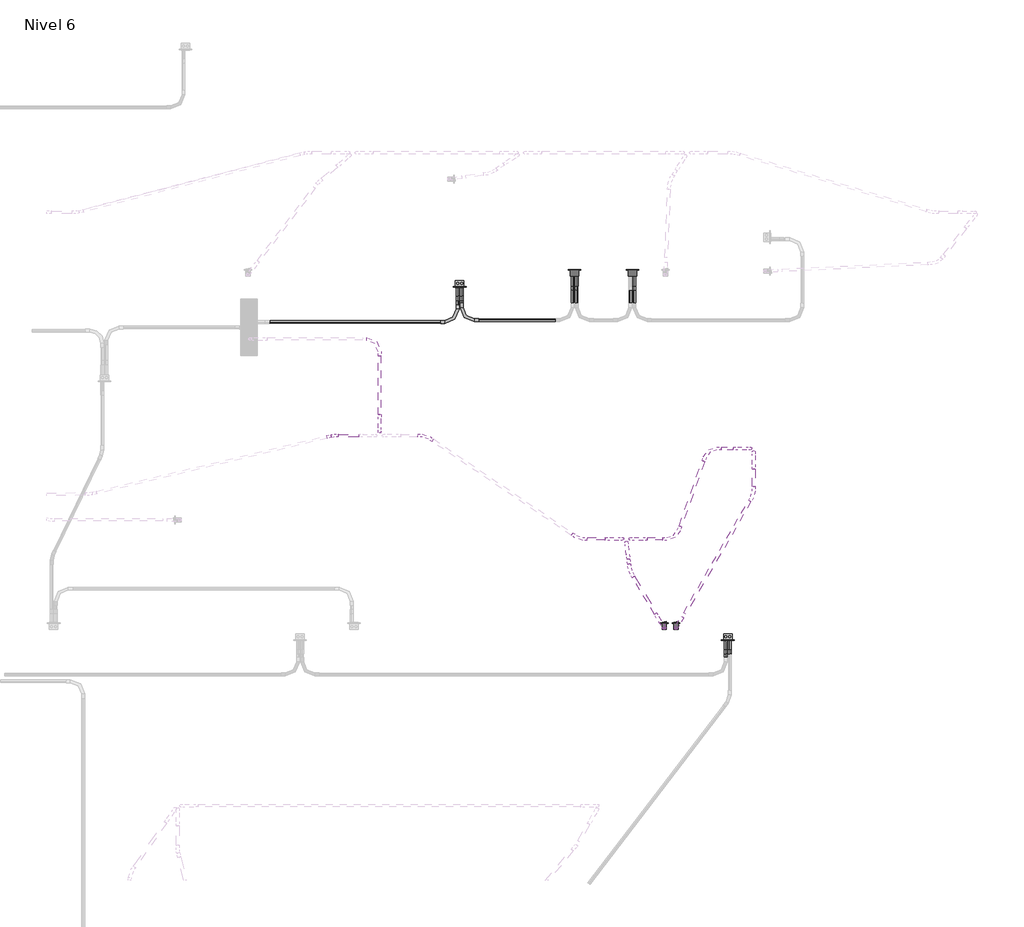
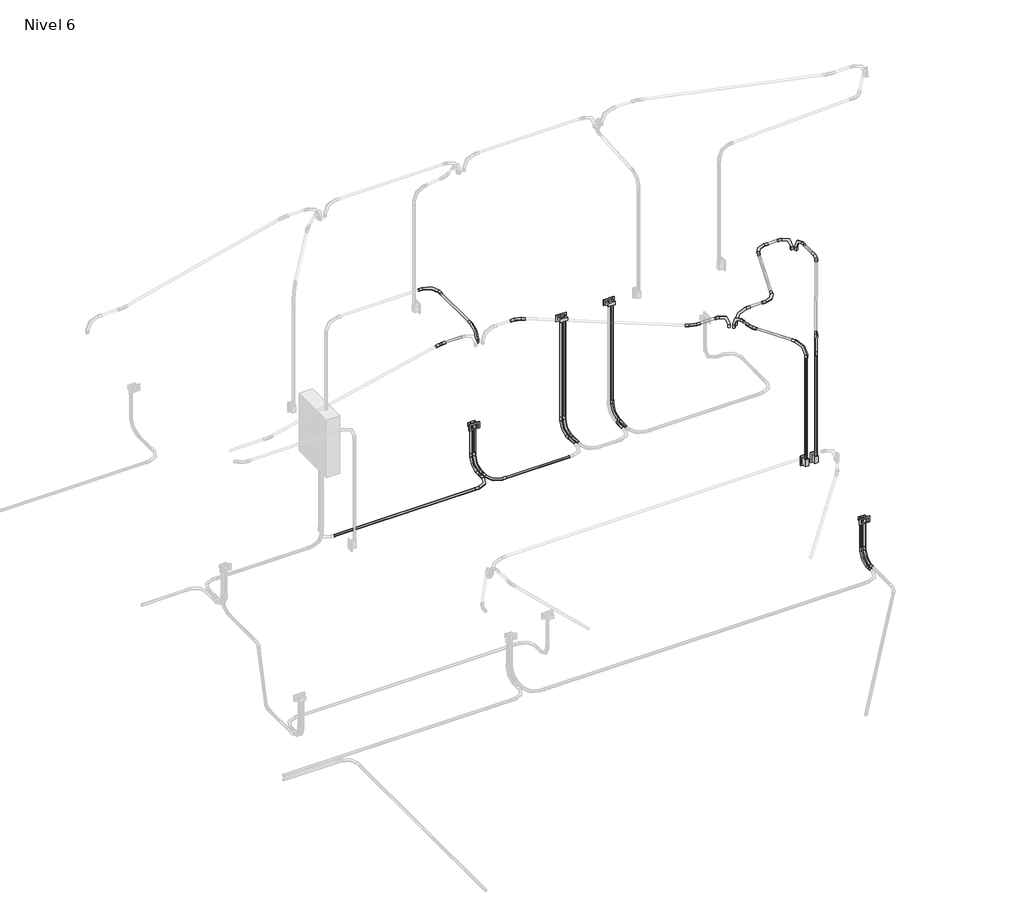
# One storey, part 8 of 9: 28 cable carrier segments, 25 cable carrier fittings, 4 proxies, 2 switching devices.
"""IFC4 building model written with IfcOpenShell, lengths in millimetres."""

from ifc_helpers import new_model, si_unit, point, frame, frame_2d, origin, place, context, project, spatial, circle_curve, trimmed, segment, composite_curve, outline, extrude, transform, mapped, element, save
from components import gfci_180f1b41, m_codo_de_tubo_extremo_liso_pvc_9da73e12, m_codo_de_tubo_extremo_liso_pvc_102f0f41, m_codo_de_tubo_extremo_liso_pvc_bdf38e05, m_codo_de_tubo_extremo_liso_pvc_96af7e0b, m_codo_de_tubo_extremo_liso_pvc_7aa797cd, m_codo_de_tubo_extremo_liso_pvc_b3bed08b, m_codo_de_tubo_extremo_liso_pvc_6da64345, switching_device_22fed34b

model = new_model("IFC4")

# Units and contexts
model_context = context("Model", 3, world=origin())
ifc_project = project(units=[si_unit("LENGTHUNIT", "METRE", prefix="MILLI")], contexts=[model_context])

# Site, building, storey
site = spatial("IfcSite", under=ifc_project)
building = spatial("IfcBuilding", under=site)
storey = spatial("IfcBuildingStorey", under=building, Name="Nivel 6", Elevation=13400.0)

# Proxies
placement = place(None, origin())
gfci_shape = gfci_180f1b41(model_context)
element("IfcBuildingElementProxy", 1, Name="Tomacorriente doble 220V : GFCI", ObjectType="Tomacorriente doble 220V : GFCI", at=placement, inside=storey, context=model_context, shape_type="MappedRepresentation", body=[
    mapped(gfci_shape, transform((4182.1446573, 15535.0, 14600.0), x_axis=(0.0, 0.0, 1.0), y_axis=(1.0, 0.0, 0.0), z_axis=(0.0, 1.0, 0.0))),
])
element("IfcBuildingElementProxy", 2, Name="Tomacorriente doble 220V : GFCI", ObjectType="Tomacorriente doble 220V : GFCI", at=placement, inside=storey, context=model_context, shape_type="MappedRepresentation", body=[
    mapped(gfci_shape, transform((4701.0778533, 15535.0, 14600.0), x_axis=(0.0, 0.0, 1.0), y_axis=(1.0, 0.0, 0.0), z_axis=(0.0, 1.0, 0.0))),
])
element("IfcBuildingElementProxy", 3, Name="Tomacorriente doble 220V : GFCI", ObjectType="Tomacorriente doble 220V : GFCI", at=placement, inside=storey, context=model_context, shape_type="MappedRepresentation", body=[
    mapped(gfci_shape, transform((3152.2211202, 15385.0, 13800.0), x_axis=(0.0, 0.0, 1.0), y_axis=(-1.0, 0.0, 0.0), z_axis=(0.0, -1.0, 0.0))),
])
element("IfcBuildingElementProxy", 4, Name="Tomacorriente doble 220V : GFCI", ObjectType="Tomacorriente doble 220V : GFCI", at=placement, inside=storey, context=model_context, shape_type="MappedRepresentation", body=[
    mapped(gfci_shape, transform((5557.1273027, 12215.0, 13800.0), x_axis=(0.0, 0.0, 1.0), y_axis=(-1.0, 0.0, 0.0), z_axis=(0.0, -1.0, 0.0))),
])

# Cable carrier fittings
m_codo_de_tubo_extremo_liso_pvc_shape = m_codo_de_tubo_extremo_liso_pvc_9da73e12(model_context)
element("IfcCableCarrierFitting", 5, ObjectType="M_Codo de tubo - Extremo liso - PVC : CODO POTENCIA", at=placement, inside=storey, context=model_context, shape_type="MappedRepresentation", body=[
    mapped(m_codo_de_tubo_extremo_liso_pvc_shape, transform((4719.1096731, 15505.3628882, 13330.0), x_axis=(0.0, 0.0, -1.0), y_axis=(0.0, -1.0, 0.0), z_axis=(-1.0, 0.0, 0.0))),
])
element("IfcCableCarrierFitting", 6, ObjectType="M_Codo de tubo - Extremo liso - PVC : CODO POTENCIA", at=placement, inside=storey, context=model_context, shape_type="MappedRepresentation", body=[
    mapped(m_codo_de_tubo_extremo_liso_pvc_shape, transform((4200.1764771, 15505.3628882, 13330.0), x_axis=(0.0, 0.0, -1.0), y_axis=(0.0, -1.0, 0.0), z_axis=(-1.0, 0.0, 0.0))),
])
element("IfcCableCarrierFitting", 7, ObjectType="M_Codo de tubo - Extremo liso - PVC : CODO POTENCIA", at=placement, inside=storey, context=model_context, shape_type="MappedRepresentation", body=[
    mapped(m_codo_de_tubo_extremo_liso_pvc_shape, transform((4164.1128375, 15505.3628882, 13330.0), x_axis=(0.0, 0.0, -1.0), y_axis=(0.0, -1.0, 0.0), z_axis=(-1.0, 0.0, 0.0))),
])
element("IfcCableCarrierFitting", 8, ObjectType="M_Codo de tubo - Extremo liso - PVC : CODO POTENCIA", at=placement, inside=storey, context=model_context, shape_type="MappedRepresentation", body=[
    mapped(m_codo_de_tubo_extremo_liso_pvc_shape, transform((3170.25294, 15414.6371118, 13330.0), x_axis=(0.0, 0.0, -1.0), y_axis=(0.0, -1.0, 0.0), z_axis=(-1.0, 0.0, 0.0))),
])
element("IfcCableCarrierFitting", 9, ObjectType="M_Codo de tubo - Extremo liso - PVC : CODO POTENCIA", at=placement, inside=storey, context=model_context, shape_type="MappedRepresentation", body=[
    mapped(m_codo_de_tubo_extremo_liso_pvc_shape, transform((3134.1893004, 15414.6371118, 13330.0), x_axis=(0.0, 0.0, -1.0), y_axis=(0.0, -1.0, 0.0), z_axis=(-1.0, 0.0, 0.0))),
])
element("IfcCableCarrierFitting", 10, ObjectType="M_Codo de tubo - Extremo liso - PVC : CODO POTENCIA", at=placement, inside=storey, context=model_context, shape_type="MappedRepresentation", body=[
    mapped(m_codo_de_tubo_extremo_liso_pvc_shape, transform((3170.25294, 15085.1167763, 13330.0), x_axis=(0.0, -1.0, 0.0), y_axis=(1.0, 0.0, 0.0), z_axis=(0.0, 0.0, 1.0))),
])
element("IfcCableCarrierFitting", 11, ObjectType="M_Codo de tubo - Extremo liso - PVC : CODO POTENCIA", at=placement, inside=storey, context=model_context, shape_type="MappedRepresentation", body=[
    mapped(m_codo_de_tubo_extremo_liso_pvc_shape, transform((3134.1893004, 15069.6371118, 13330.0), x_axis=(1.0, 0.0, 0.0), y_axis=(0.0, 1.0, 0.0), z_axis=(0.0, 0.0, 1.0))),
])
element("IfcCableCarrierFitting", 12, ObjectType="M_Codo de tubo - Extremo liso - PVC : CODO POTENCIA", at=placement, inside=storey, context=model_context, shape_type="MappedRepresentation", body=[
    mapped(m_codo_de_tubo_extremo_liso_pvc_shape, transform((5539.0954829, 12244.6371118, 13330.0), x_axis=(0.0, 0.0, -1.0), y_axis=(0.0, -1.0, 0.0), z_axis=(-1.0, 0.0, 0.0))),
])
element("IfcCableCarrierFitting", 13, ObjectType="M_Codo de tubo - Extremo liso - PVC : CODO POTENCIA", at=placement, inside=storey, context=model_context, shape_type="MappedRepresentation", body=[
    mapped(m_codo_de_tubo_extremo_liso_pvc_shape, transform((5575.1591225, 12244.6371118, 13330.0), x_axis=(0.0, 0.0, -1.0), y_axis=(0.0, -1.0, 0.0), z_axis=(-1.0, 0.0, 0.0))),
])
element("IfcCableCarrierFitting", 14, ObjectType="M_Codo de tubo - Extremo liso - PVC : CODO ILUMINACION", at=placement, inside=storey, context=model_context, shape_type="MappedRepresentation", body=[
    mapped(m_codo_de_tubo_extremo_liso_pvc_shape, transform((4683.8571728, 13122.418439, 15950.0), x_axis=(-1.0, 0.0, 0.0), y_axis=(0.0, 0.0, -1.0), z_axis=(0.0, -1.0, 0.0))),
])
element("IfcCableCarrierFitting", 15, ObjectType="M_Codo de tubo - Extremo liso - PVC : CODO ILUMINACION", at=placement, inside=storey, context=model_context, shape_type="MappedRepresentation", body=[
    mapped(m_codo_de_tubo_extremo_liso_pvc_shape, transform((2433.3089238, 14916.0485453, 15950.0), x_axis=(0.0, 1.0, 0.0), y_axis=(-1.0, 0.0, 0.0), z_axis=(0.0, 0.0, 1.0))),
])
element("IfcCableCarrierFitting", 16, ObjectType="M_Codo de tubo - Extremo liso - PVC : CODO ILUMINACION", at=placement, inside=storey, context=model_context, shape_type="MappedRepresentation", body=[
    mapped(m_codo_de_tubo_extremo_liso_pvc_shape, transform((4646.8646191, 13092.0334671, 15950.0), x_axis=(-0.12496053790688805, 0.992161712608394, 0.0), y_axis=(0.0, 0.0, -1.0000000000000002), z_axis=(-0.992161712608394, -0.12496053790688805, 0.0))),
])
element("IfcCableCarrierFitting", 17, ObjectType="M_Codo de tubo - Extremo liso - PVC : CODO ILUMINACION", at=placement, inside=storey, context=model_context, shape_type="MappedRepresentation", body=[
    mapped(m_codo_de_tubo_extremo_liso_pvc_shape, transform((4986.8964525, 12321.8611243, 15950.0), x_axis=(0.0, 0.0, 1.0), y_axis=(-0.5150380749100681, 0.857167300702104, 0.0), z_axis=(-0.857167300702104, -0.5150380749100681, 0.0))),
])
element("IfcCableCarrierFitting", 18, ObjectType="M_Codo de tubo - Extremo liso - PVC : CODO ILUMINACION", at=placement, inside=storey, context=model_context, shape_type="MappedRepresentation", body=[
    mapped(m_codo_de_tubo_extremo_liso_pvc_shape, transform((5789.78434, 13902.1107255, 15950.0), x_axis=(0.0, 1.0, 0.0), y_axis=(0.0, 0.0, -1.0), z_axis=(-1.0, 0.0, 0.0))),
])
element("IfcCableCarrierFitting", 19, ObjectType="M_Codo de tubo - Extremo liso - PVC : CODO ILUMINACION", at=placement, inside=storey, context=model_context, shape_type="MappedRepresentation", body=[
    mapped(m_codo_de_tubo_extremo_liso_pvc_shape, transform((5092.4668277, 12321.8611243, 15950.0), x_axis=(0.0, 0.0, 1.0), y_axis=(0.5103556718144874, 0.8599634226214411, 0.0), z_axis=(-0.8599634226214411, 0.5103556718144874, 0.0))),
])
m_codo_de_tubo_extremo_liso_pvc_2_shape = m_codo_de_tubo_extremo_liso_pvc_102f0f41(model_context)
element("IfcCableCarrierFitting", 20, ObjectType="M_Codo de tubo - Extremo liso - PVC : CODO ILUMINACION", at=placement, inside=storey, context=model_context, shape_type="MappedRepresentation", body=[
    mapped(m_codo_de_tubo_extremo_liso_pvc_2_shape, transform((5759.564121, 13932.3309445, 15950.0), x_axis=(1.0, 0.0, 0.0), y_axis=(0.0, 0.0, 1.0), z_axis=(0.0, -1.0, 0.0))),
])
element("IfcCableCarrierFitting", 21, ObjectType="M_Codo de tubo - Extremo liso - PVC : CODO ILUMINACION", at=placement, inside=storey, context=model_context, shape_type="MappedRepresentation", body=[
    mapped(m_codo_de_tubo_extremo_liso_pvc_2_shape, transform((4611.6011783, 13122.418439, 15950.0), x_axis=(1.0, 0.0, 0.0), y_axis=(0.0, 0.0, 1.0), z_axis=(0.0, -1.0, 0.0))),
])
element("IfcCableCarrierFitting", 22, ObjectType="M_Codo de tubo - Extremo liso - PVC : CODO ILUMINACION", at=placement, inside=storey, context=model_context, shape_type="MappedRepresentation", body=[
    mapped(m_codo_de_tubo_extremo_liso_pvc_2_shape, transform((2433.3089238, 14083.6485453, 15950.0), x_axis=(0.0, -1.0, 0.0), y_axis=(0.0, 0.0, 1.0), z_axis=(-1.0, 0.0, 0.0))),
])
m_codo_de_tubo_extremo_liso_pvc_3_shape = m_codo_de_tubo_extremo_liso_pvc_bdf38e05(model_context)
element("IfcCableCarrierFitting", 23, ObjectType="M_Codo de tubo - Extremo liso - PVC : CODO ILUMINACION", at=placement, inside=storey, context=model_context, shape_type="MappedRepresentation", body=[
    mapped(m_codo_de_tubo_extremo_liso_pvc_3_shape, transform((5378.564121, 13932.3309445, 15950.0), x_axis=(-1.0, 0.0, 0.0), y_axis=(0.0, -1.0, 0.0), z_axis=(0.0, 0.0, 1.0))),
])
element("IfcCableCarrierFitting", 24, ObjectType="M_Codo de tubo - Extremo liso - PVC : CODO ILUMINACION", at=placement, inside=storey, context=model_context, shape_type="MappedRepresentation", body=[
    mapped(m_codo_de_tubo_extremo_liso_pvc_3_shape, transform((5090.7365125, 13122.418439, 15950.0), x_axis=(1.0, 0.0, 0.0), y_axis=(0.0, 1.0, 0.0), z_axis=(0.0, 0.0, 1.0))),
])
m_codo_de_tubo_extremo_liso_pvc_4_shape = m_codo_de_tubo_extremo_liso_pvc_96af7e0b(model_context)
element("IfcCableCarrierFitting", 25, ObjectType="M_Codo de tubo - Extremo liso - PVC : CODO ILUMINACION", at=placement, inside=storey, context=model_context, shape_type="MappedRepresentation", body=[
    mapped(m_codo_de_tubo_extremo_liso_pvc_4_shape, transform((2850.436921, 14047.5205481, 15950.0), x_axis=(-0.8290123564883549, 0.5592302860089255, 0.0), y_axis=(-0.5592302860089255, -0.8290123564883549, 0.0), z_axis=(0.0, 0.0, 1.0))),
])
element("IfcCableCarrierFitting", 26, ObjectType="M_Codo de tubo - Extremo liso - PVC : CODO ILUMINACION", at=placement, inside=storey, context=model_context, shape_type="MappedRepresentation", body=[
    mapped(m_codo_de_tubo_extremo_liso_pvc_4_shape, transform((4221.8238052, 13122.418439, 15950.0), x_axis=(0.8290123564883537, -0.5592302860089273, 0.0), y_axis=(0.5592302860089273, 0.8290123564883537, 0.0), z_axis=(0.0, 0.0, 1.0))),
])
m_codo_de_tubo_extremo_liso_pvc_5_shape = m_codo_de_tubo_extremo_liso_pvc_7aa797cd(model_context)
element("IfcCableCarrierFitting", 27, ObjectType="M_Codo de tubo - Extremo liso - PVC : CODO ILUMINACION", at=placement, inside=storey, context=model_context, shape_type="MappedRepresentation", body=[
    mapped(m_codo_de_tubo_extremo_liso_pvc_5_shape, transform((2011.6312144, 14047.5205481, 15950.0), x_axis=(-1.0, 0.0, 0.0), y_axis=(0.0, -1.0, 0.0), z_axis=(0.0, 0.0, 1.0))),
])
m_codo_de_tubo_extremo_liso_pvc_6_shape = m_codo_de_tubo_extremo_liso_pvc_b3bed08b(model_context)
element("IfcCableCarrierFitting", 28, ObjectType="M_Codo de tubo - Extremo liso - PVC : CODO ILUMINACION", at=placement, inside=storey, context=model_context, shape_type="MappedRepresentation", body=[
    mapped(m_codo_de_tubo_extremo_liso_pvc_6_shape, transform((4679.4140036, 12833.5978552, 15950.0), x_axis=(0.1249605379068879, -0.992161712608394, 0.0), y_axis=(0.992161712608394, 0.1249605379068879, 0.0), z_axis=(0.0, 0.0, 1.0))),
])
m_codo_de_tubo_extremo_liso_pvc_7_shape = m_codo_de_tubo_extremo_liso_pvc_6da64345(model_context)
element("IfcCableCarrierFitting", 29, ObjectType="M_Codo de tubo - Extremo liso - PVC : CODO ILUMINACION", at=placement, inside=storey, context=model_context, shape_type="MappedRepresentation", body=[
    mapped(m_codo_de_tubo_extremo_liso_pvc_7_shape, transform((5789.78434, 13521.1107255, 15950.0), x_axis=(0.5103556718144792, 0.859963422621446, 0.0), y_axis=(-0.859963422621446, 0.5103556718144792, 0.0), z_axis=(0.0, 0.0, 1.0))),
])

# Cable carrier segments
element("IfcCableCarrierSegment", 30, ObjectType="PVC-SEL, POTENCIA", at=placement, inside=storey, context=model_context, shape_type="SweptSolid", body=[
    extrude(outline(composite_curve([segment(trimmed(circle_curve(frame_2d((13330.0, 4719.1096731)), 11.71), [point((13330.0, 4707.3996731))], [point((13318.29, 4719.1096731))], False, "CARTESIAN"), True, "CONTINUOUS"), segment(trimmed(circle_curve(frame_2d((13330.0, 4719.1096731)), 11.71), [point((13318.29, 4719.1096731))], [point((13330.0, 4730.8196731))], False, "CARTESIAN"), True, "CONTINUOUS"), segment(trimmed(circle_curve(frame_2d((13330.0, 4719.1096731)), 11.71), [point((13330.0, 4730.8196731))], [point((13341.71, 4719.1096731))], False, "CARTESIAN"), True, "CONTINUOUS"), segment(trimmed(circle_curve(frame_2d((13330.0, 4719.1096731)), 11.71), [point((13341.71, 4719.1096731))], [point((13330.0, 4707.3996731))], False, "CARTESIAN"), True, "CONTINUOUS")], self_intersect=False)), frame((0.0, 15237.5167763, 0.0), z_axis=(0.0, 1.0, 0.0), x_axis=(0.0, 0.0, 1.0)), (0.0, 0.0, 1.0), 115.4461119),
])
element("IfcCableCarrierSegment", 31, ObjectType="PVC-SEL, POTENCIA", at=placement, inside=storey, context=model_context, shape_type="SweptSolid", body=[
    extrude(outline(composite_curve([segment(trimmed(circle_curve(frame_2d((4719.1096731, 15505.3628882)), 11.71), [point((4730.8196731, 15505.3628882))], [point((4719.1096731, 15493.6528882))], False, "CARTESIAN"), True, "CONTINUOUS"), segment(trimmed(circle_curve(frame_2d((4719.1096731, 15505.3628882)), 11.71), [point((4719.1096731, 15493.6528882))], [point((4707.3996731, 15505.3628882))], False, "CARTESIAN"), True, "CONTINUOUS"), segment(trimmed(circle_curve(frame_2d((4719.1096731, 15505.3628882)), 11.71), [point((4707.3996731, 15505.3628882))], [point((4719.1096731, 15517.0728882))], False, "CARTESIAN"), True, "CONTINUOUS"), segment(trimmed(circle_curve(frame_2d((4719.1096731, 15505.3628882)), 11.71), [point((4719.1096731, 15517.0728882))], [point((4730.8196731, 15505.3628882))], False, "CARTESIAN"), True, "CONTINUOUS")], self_intersect=False)), frame((0.0, 0.0, 13482.4), z_axis=(0.0, 0.0, 1.0), x_axis=(1.0, 0.0, 0.0)), (0.0, 0.0, 1.0), 1097.3020537),
])
element("IfcCableCarrierSegment", 32, ObjectType="PVC-SEL, POTENCIA", at=placement, inside=storey, context=model_context, shape_type="SweptSolid", body=[
    extrude(outline(composite_curve([segment(trimmed(circle_curve(frame_2d((13330.0, 4200.1764771)), 11.71), [point((13330.0, 4188.4664771))], [point((13318.29, 4200.1764771))], False, "CARTESIAN"), True, "CONTINUOUS"), segment(trimmed(circle_curve(frame_2d((13330.0, 4200.1764771)), 11.71), [point((13318.29, 4200.1764771))], [point((13330.0, 4211.8864771))], False, "CARTESIAN"), True, "CONTINUOUS"), segment(trimmed(circle_curve(frame_2d((13330.0, 4200.1764771)), 11.71), [point((13330.0, 4211.8864771))], [point((13341.71, 4200.1764771))], False, "CARTESIAN"), True, "CONTINUOUS"), segment(trimmed(circle_curve(frame_2d((13330.0, 4200.1764771)), 11.71), [point((13341.71, 4200.1764771))], [point((13330.0, 4188.4664771))], False, "CARTESIAN"), True, "CONTINUOUS")], self_intersect=False)), frame((0.0, 15237.5167763, 0.0), z_axis=(0.0, 1.0, 0.0), x_axis=(0.0, 0.0, 1.0)), (0.0, 0.0, 1.0), 115.4461119),
])
element("IfcCableCarrierSegment", 33, ObjectType="PVC-SEL, POTENCIA", at=placement, inside=storey, context=model_context, shape_type="SweptSolid", body=[
    extrude(outline(composite_curve([segment(trimmed(circle_curve(frame_2d((4200.1764771, 15505.3628882)), 11.71), [point((4211.8864771, 15505.3628882))], [point((4200.1764771, 15493.6528882))], False, "CARTESIAN"), True, "CONTINUOUS"), segment(trimmed(circle_curve(frame_2d((4200.1764771, 15505.3628882)), 11.71), [point((4200.1764771, 15493.6528882))], [point((4188.4664771, 15505.3628882))], False, "CARTESIAN"), True, "CONTINUOUS"), segment(trimmed(circle_curve(frame_2d((4200.1764771, 15505.3628882)), 11.71), [point((4188.4664771, 15505.3628882))], [point((4200.1764771, 15517.0728882))], False, "CARTESIAN"), True, "CONTINUOUS"), segment(trimmed(circle_curve(frame_2d((4200.1764771, 15505.3628882)), 11.71), [point((4200.1764771, 15517.0728882))], [point((4211.8864771, 15505.3628882))], False, "CARTESIAN"), True, "CONTINUOUS")], self_intersect=False)), frame((0.0, 0.0, 13482.4), z_axis=(0.0, 0.0, 1.0), x_axis=(1.0, 0.0, 0.0)), (0.0, 0.0, 1.0), 1097.3020537),
])
element("IfcCableCarrierSegment", 34, ObjectType="PVC-SEL, POTENCIA", at=placement, inside=storey, context=model_context, shape_type="SweptSolid", body=[
    extrude(outline(composite_curve([segment(trimmed(circle_curve(frame_2d((13330.0, 4164.1128375)), 11.71), [point((13330.0, 4152.4028375))], [point((13318.29, 4164.1128375))], False, "CARTESIAN"), True, "CONTINUOUS"), segment(trimmed(circle_curve(frame_2d((13330.0, 4164.1128375)), 11.71), [point((13318.29, 4164.1128375))], [point((13330.0, 4175.8228375))], False, "CARTESIAN"), True, "CONTINUOUS"), segment(trimmed(circle_curve(frame_2d((13330.0, 4164.1128375)), 11.71), [point((13330.0, 4175.8228375))], [point((13341.71, 4164.1128375))], False, "CARTESIAN"), True, "CONTINUOUS"), segment(trimmed(circle_curve(frame_2d((13330.0, 4164.1128375)), 11.71), [point((13341.71, 4164.1128375))], [point((13330.0, 4152.4028375))], False, "CARTESIAN"), True, "CONTINUOUS")], self_intersect=False)), frame((0.0, 15237.5167763, 0.0), z_axis=(0.0, 1.0, 0.0), x_axis=(0.0, 0.0, 1.0)), (0.0, 0.0, 1.0), 115.4461119),
])
element("IfcCableCarrierSegment", 35, ObjectType="PVC-SEL, POTENCIA", at=placement, inside=storey, context=model_context, shape_type="SweptSolid", body=[
    extrude(outline(composite_curve([segment(trimmed(circle_curve(frame_2d((4164.1128375, 15505.3628882)), 11.71), [point((4175.8228375, 15505.3628882))], [point((4164.1128375, 15493.6528882))], False, "CARTESIAN"), True, "CONTINUOUS"), segment(trimmed(circle_curve(frame_2d((4164.1128375, 15505.3628882)), 11.71), [point((4164.1128375, 15493.6528882))], [point((4152.4028375, 15505.3628882))], False, "CARTESIAN"), True, "CONTINUOUS"), segment(trimmed(circle_curve(frame_2d((4164.1128375, 15505.3628882)), 11.71), [point((4152.4028375, 15505.3628882))], [point((4164.1128375, 15517.0728882))], False, "CARTESIAN"), True, "CONTINUOUS"), segment(trimmed(circle_curve(frame_2d((4164.1128375, 15505.3628882)), 11.71), [point((4164.1128375, 15517.0728882))], [point((4175.8228375, 15505.3628882))], False, "CARTESIAN"), True, "CONTINUOUS")], self_intersect=False)), frame((0.0, 0.0, 13482.4), z_axis=(0.0, 0.0, 1.0), x_axis=(1.0, 0.0, 0.0)), (0.0, 0.0, 1.0), 1097.3020537),
])
element("IfcCableCarrierSegment", 36, ObjectType="PVC-SEL, POTENCIA", at=placement, inside=storey, context=model_context, shape_type="SweptSolid", body=[
    extrude(outline(composite_curve([segment(trimmed(circle_curve(frame_2d((13330.0, 4683.0460335)), 11.71), [point((13330.0, 4694.7560335))], [point((13341.71, 4683.0460335))], False, "CARTESIAN"), True, "CONTINUOUS"), segment(trimmed(circle_curve(frame_2d((13330.0, 4683.0460335)), 11.71), [point((13341.71, 4683.0460335))], [point((13330.0, 4671.3360335))], False, "CARTESIAN"), True, "CONTINUOUS"), segment(trimmed(circle_curve(frame_2d((13330.0, 4683.0460335)), 11.71), [point((13330.0, 4671.3360335))], [point((13318.29, 4683.0460335))], False, "CARTESIAN"), True, "CONTINUOUS"), segment(trimmed(circle_curve(frame_2d((13330.0, 4683.0460335)), 11.71), [point((13318.29, 4683.0460335))], [point((13330.0, 4694.7560335))], False, "CARTESIAN"), True, "CONTINUOUS")], self_intersect=False)), frame((0.0, 15237.5167763, 0.0), z_axis=(0.0, 1.0, 0.0), x_axis=(0.0, 0.0, 1.0)), (0.0, 0.0, 1.0), 115.4461119),
])
element("IfcCableCarrierSegment", 37, ObjectType="PVC-SEL, POTENCIA", at=placement, inside=storey, context=model_context, shape_type="SweptSolid", body=[
    extrude(outline(composite_curve([segment(trimmed(circle_curve(frame_2d((15085.1167763, 13330.0)), 11.71), [point((15073.4067763, 13330.0))], [point((15085.1167763, 13341.71))], False, "CARTESIAN"), True, "CONTINUOUS"), segment(trimmed(circle_curve(frame_2d((15085.1167763, 13330.0)), 11.71), [point((15085.1167763, 13341.71))], [point((15096.8267763, 13330.0))], False, "CARTESIAN"), True, "CONTINUOUS"), segment(trimmed(circle_curve(frame_2d((15085.1167763, 13330.0)), 11.71), [point((15096.8267763, 13330.0))], [point((15085.1167763, 13318.29))], False, "CARTESIAN"), True, "CONTINUOUS"), segment(trimmed(circle_curve(frame_2d((15085.1167763, 13330.0)), 11.71), [point((15085.1167763, 13318.29))], [point((15073.4067763, 13330.0))], False, "CARTESIAN"), True, "CONTINUOUS")], self_intersect=False)), frame((3322.65294, 0.0, 0.0), z_axis=(1.0, 0.0, 0.0), x_axis=(0.0, 1.0, 0.0)), (0.0, 0.0, 1.0), 689.0598974),
])
element("IfcCableCarrierSegment", 38, ObjectType="PVC-SEL, POTENCIA", at=placement, inside=storey, context=model_context, shape_type="SweptSolid", body=[
    extrude(outline(composite_curve([segment(trimmed(circle_curve(frame_2d((13330.0, 3170.25294)), 11.71), [point((13330.0, 3158.54294))], [point((13318.29, 3170.25294))], False, "CARTESIAN"), True, "CONTINUOUS"), segment(trimmed(circle_curve(frame_2d((13330.0, 3170.25294)), 11.71), [point((13318.29, 3170.25294))], [point((13330.0, 3181.96294))], False, "CARTESIAN"), True, "CONTINUOUS"), segment(trimmed(circle_curve(frame_2d((13330.0, 3170.25294)), 11.71), [point((13330.0, 3181.96294))], [point((13341.71, 3170.25294))], False, "CARTESIAN"), True, "CONTINUOUS"), segment(trimmed(circle_curve(frame_2d((13330.0, 3170.25294)), 11.71), [point((13341.71, 3170.25294))], [point((13330.0, 3158.54294))], False, "CARTESIAN"), True, "CONTINUOUS")], self_intersect=False)), frame((0.0, 15237.5167763, 0.0), z_axis=(0.0, 1.0, 0.0), x_axis=(0.0, 0.0, 1.0)), (0.0, 0.0, 1.0), 24.7203355),
])
element("IfcCableCarrierSegment", 39, ObjectType="PVC-SEL, POTENCIA", at=placement, inside=storey, context=model_context, shape_type="SweptSolid", body=[
    extrude(outline(composite_curve([segment(trimmed(circle_curve(frame_2d((3170.25294, 15414.6371118)), 11.71), [point((3181.96294, 15414.6371118))], [point((3170.25294, 15402.9271118))], False, "CARTESIAN"), True, "CONTINUOUS"), segment(trimmed(circle_curve(frame_2d((3170.25294, 15414.6371118)), 11.71), [point((3170.25294, 15402.9271118))], [point((3158.54294, 15414.6371118))], False, "CARTESIAN"), True, "CONTINUOUS"), segment(trimmed(circle_curve(frame_2d((3170.25294, 15414.6371118)), 11.71), [point((3158.54294, 15414.6371118))], [point((3170.25294, 15426.3471118))], False, "CARTESIAN"), True, "CONTINUOUS"), segment(trimmed(circle_curve(frame_2d((3170.25294, 15414.6371118)), 11.71), [point((3170.25294, 15426.3471118))], [point((3181.96294, 15414.6371118))], False, "CARTESIAN"), True, "CONTINUOUS")], self_intersect=False)), frame((0.0, 0.0, 13482.4), z_axis=(0.0, 0.0, 1.0), x_axis=(1.0, 0.0, 0.0)), (0.0, 0.0, 1.0), 297.3020537),
])
element("IfcCableCarrierSegment", 40, ObjectType="PVC-SEL, POTENCIA", at=placement, inside=storey, context=model_context, shape_type="SweptSolid", body=[
    extrude(outline(composite_curve([segment(trimmed(circle_curve(frame_2d((13330.0, 3134.1893004)), 11.71), [point((13330.0, 3122.4793004))], [point((13318.29, 3134.1893004))], False, "CARTESIAN"), True, "CONTINUOUS"), segment(trimmed(circle_curve(frame_2d((13330.0, 3134.1893004)), 11.71), [point((13318.29, 3134.1893004))], [point((13330.0, 3145.8993004))], False, "CARTESIAN"), True, "CONTINUOUS"), segment(trimmed(circle_curve(frame_2d((13330.0, 3134.1893004)), 11.71), [point((13330.0, 3145.8993004))], [point((13341.71, 3134.1893004))], False, "CARTESIAN"), True, "CONTINUOUS"), segment(trimmed(circle_curve(frame_2d((13330.0, 3134.1893004)), 11.71), [point((13341.71, 3134.1893004))], [point((13330.0, 3122.4793004))], False, "CARTESIAN"), True, "CONTINUOUS")], self_intersect=False)), frame((0.0, 15222.0371118, 0.0), z_axis=(0.0, 1.0, 0.0), x_axis=(0.0, 0.0, 1.0)), (0.0, 0.0, 1.0), 40.2),
])
element("IfcCableCarrierSegment", 41, ObjectType="PVC-SEL, POTENCIA", at=placement, inside=storey, context=model_context, shape_type="SweptSolid", body=[
    extrude(outline(composite_curve([segment(trimmed(circle_curve(frame_2d((3134.1893004, 15414.6371118)), 11.71), [point((3145.8993004, 15414.6371118))], [point((3134.1893004, 15402.9271118))], False, "CARTESIAN"), True, "CONTINUOUS"), segment(trimmed(circle_curve(frame_2d((3134.1893004, 15414.6371118)), 11.71), [point((3134.1893004, 15402.9271118))], [point((3122.4793004, 15414.6371118))], False, "CARTESIAN"), True, "CONTINUOUS"), segment(trimmed(circle_curve(frame_2d((3134.1893004, 15414.6371118)), 11.71), [point((3122.4793004, 15414.6371118))], [point((3134.1893004, 15426.3471118))], False, "CARTESIAN"), True, "CONTINUOUS"), segment(trimmed(circle_curve(frame_2d((3134.1893004, 15414.6371118)), 11.71), [point((3134.1893004, 15426.3471118))], [point((3145.8993004, 15414.6371118))], False, "CARTESIAN"), True, "CONTINUOUS")], self_intersect=False)), frame((0.0, 0.0, 13482.4), z_axis=(0.0, 0.0, 1.0), x_axis=(1.0, 0.0, 0.0)), (0.0, 0.0, 1.0), 297.3020537),
])
element("IfcCableCarrierSegment", 42, ObjectType="PVC-SEL, POTENCIA", at=placement, inside=storey, context=model_context, shape_type="SweptSolid", body=[
    extrude(outline(composite_curve([segment(trimmed(circle_curve(frame_2d((15069.6371118, 13330.0)), 11.71), [point((15081.3471118, 13330.0))], [point((15069.6371118, 13318.29))], False, "CARTESIAN"), True, "CONTINUOUS"), segment(trimmed(circle_curve(frame_2d((15069.6371118, 13330.0)), 11.71), [point((15069.6371118, 13318.29))], [point((15057.9271118, 13330.0))], False, "CARTESIAN"), True, "CONTINUOUS"), segment(trimmed(circle_curve(frame_2d((15069.6371118, 13330.0)), 11.71), [point((15057.9271118, 13330.0))], [point((15069.6371118, 13341.71))], False, "CARTESIAN"), True, "CONTINUOUS"), segment(trimmed(circle_curve(frame_2d((15069.6371118, 13330.0)), 11.71), [point((15069.6371118, 13341.71))], [point((15081.3471118, 13330.0))], False, "CARTESIAN"), True, "CONTINUOUS")], self_intersect=False)), frame((1446.5893004, 0.0, 0.0), z_axis=(1.0, 0.0, 0.0), x_axis=(0.0, 1.0, 0.0)), (0.0, 0.0, 1.0), 1535.2),
])
element("IfcCableCarrierSegment", 43, ObjectType="PVC-SEL, POTENCIA", at=placement, inside=storey, context=model_context, shape_type="SweptSolid", body=[
    extrude(outline(composite_curve([segment(trimmed(circle_curve(frame_2d((13330.0, 5539.0954829)), 11.71), [point((13330.0, 5527.3854829))], [point((13318.29, 5539.0954829))], False, "CARTESIAN"), True, "CONTINUOUS"), segment(trimmed(circle_curve(frame_2d((13330.0, 5539.0954829)), 11.71), [point((13318.29, 5539.0954829))], [point((13330.0, 5550.8054829))], False, "CARTESIAN"), True, "CONTINUOUS"), segment(trimmed(circle_curve(frame_2d((13330.0, 5539.0954829)), 11.71), [point((13330.0, 5550.8054829))], [point((13341.71, 5539.0954829))], False, "CARTESIAN"), True, "CONTINUOUS"), segment(trimmed(circle_curve(frame_2d((13330.0, 5539.0954829)), 11.71), [point((13341.71, 5539.0954829))], [point((13330.0, 5527.3854829))], False, "CARTESIAN"), True, "CONTINUOUS")], self_intersect=False)), frame((0.0, 12057.0371118, 0.0), z_axis=(0.0, 1.0, 0.0), x_axis=(0.0, 0.0, 1.0)), (0.0, 0.0, 1.0), 35.2),
])
element("IfcCableCarrierSegment", 44, ObjectType="PVC-SEL, POTENCIA", at=placement, inside=storey, context=model_context, shape_type="SweptSolid", body=[
    extrude(outline(composite_curve([segment(trimmed(circle_curve(frame_2d((5539.0954829, 12244.6371118)), 11.71), [point((5550.8054829, 12244.6371118))], [point((5539.0954829, 12232.9271118))], False, "CARTESIAN"), True, "CONTINUOUS"), segment(trimmed(circle_curve(frame_2d((5539.0954829, 12244.6371118)), 11.71), [point((5539.0954829, 12232.9271118))], [point((5527.3854829, 12244.6371118))], False, "CARTESIAN"), True, "CONTINUOUS"), segment(trimmed(circle_curve(frame_2d((5539.0954829, 12244.6371118)), 11.71), [point((5527.3854829, 12244.6371118))], [point((5539.0954829, 12256.3471118))], False, "CARTESIAN"), True, "CONTINUOUS"), segment(trimmed(circle_curve(frame_2d((5539.0954829, 12244.6371118)), 11.71), [point((5539.0954829, 12256.3471118))], [point((5550.8054829, 12244.6371118))], False, "CARTESIAN"), True, "CONTINUOUS")], self_intersect=False)), frame((0.0, 0.0, 13482.4), z_axis=(0.0, 0.0, 1.0), x_axis=(1.0, 0.0, 0.0)), (0.0, 0.0, 1.0), 297.3020537),
])
element("IfcCableCarrierSegment", 45, ObjectType="PVC-SEL, POTENCIA", at=placement, inside=storey, context=model_context, shape_type="SweptSolid", body=[
    extrude(outline(composite_curve([segment(trimmed(circle_curve(frame_2d((5575.1591225, 12244.6371118)), 11.71), [point((5586.8691225, 12244.6371118))], [point((5575.1591225, 12232.9271118))], False, "CARTESIAN"), True, "CONTINUOUS"), segment(trimmed(circle_curve(frame_2d((5575.1591225, 12244.6371118)), 11.71), [point((5575.1591225, 12232.9271118))], [point((5563.4491225, 12244.6371118))], False, "CARTESIAN"), True, "CONTINUOUS"), segment(trimmed(circle_curve(frame_2d((5575.1591225, 12244.6371118)), 11.71), [point((5563.4491225, 12244.6371118))], [point((5575.1591225, 12256.3471118))], False, "CARTESIAN"), True, "CONTINUOUS"), segment(trimmed(circle_curve(frame_2d((5575.1591225, 12244.6371118)), 11.71), [point((5575.1591225, 12256.3471118))], [point((5586.8691225, 12244.6371118))], False, "CARTESIAN"), True, "CONTINUOUS")], self_intersect=False)), frame((0.0, 0.0, 13482.4), z_axis=(0.0, 0.0, 1.0), x_axis=(1.0, 0.0, 0.0)), (0.0, 0.0, 1.0), 297.3020537),
])
element("IfcCableCarrierSegment", 46, ObjectType="PVC-SEL ILUMINACION", at=placement, inside=storey, context=model_context, shape_type="SweptSolid", body=[
    extrude(outline(composite_curve([segment(trimmed(circle_curve(frame_2d((0.0, -11.71)), 11.71), [point((-11.71, -11.71))], [point((0.0, 0.0))], False, "CARTESIAN"), True, "CONTINUOUS"), segment(trimmed(circle_curve(frame_2d((0.0, -11.71)), 11.71), [point((0.0, 0.0))], [point((11.71, -11.71))], False, "CARTESIAN"), True, "CONTINUOUS"), segment(trimmed(circle_curve(frame_2d((0.0, -11.71)), 11.71), [point((11.71, -11.71))], [point((0.0, -23.42))], False, "CARTESIAN"), True, "CONTINUOUS"), segment(trimmed(circle_curve(frame_2d((0.0, -11.71)), 11.71), [point((0.0, -23.42))], [point((-11.71, -11.71))], False, "CARTESIAN"), True, "CONTINUOUS")], self_intersect=False)), frame((5130.5126967, 13234.3438695, 15938.29), z_axis=(0.33486374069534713, 0.9422665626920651, 0.0), x_axis=(0.9422665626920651, -0.33486374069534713, 0.0)), (0.0, 0.0, 1.0), 621.9701174),
])
element("IfcCableCarrierSegment", 47, ObjectType="PVC-SEL ILUMINACION", at=placement, inside=storey, context=model_context, shape_type="SweptSolid", body=[
    extrude(outline(composite_curve([segment(trimmed(circle_curve(frame_2d((13122.418439, 15950.0)), 11.71), [point((13110.708439, 15950.0))], [point((13122.418439, 15961.71))], False, "CARTESIAN"), True, "CONTINUOUS"), segment(trimmed(circle_curve(frame_2d((13122.418439, 15950.0)), 11.71), [point((13122.418439, 15961.71))], [point((13134.128439, 15950.0))], False, "CARTESIAN"), True, "CONTINUOUS"), segment(trimmed(circle_curve(frame_2d((13122.418439, 15950.0)), 11.71), [point((13134.128439, 15950.0))], [point((13122.418439, 15938.29))], False, "CARTESIAN"), True, "CONTINUOUS"), segment(trimmed(circle_curve(frame_2d((13122.418439, 15950.0)), 11.71), [point((13122.418439, 15938.29))], [point((13110.708439, 15950.0))], False, "CARTESIAN"), True, "CONTINUOUS")], self_intersect=False)), frame((4836.2571728, 0.0, 0.0), z_axis=(1.0, 0.0, 0.0), x_axis=(0.0, 1.0, 0.0)), (0.0, 0.0, 1.0), 135.6961473),
])
element("IfcCableCarrierSegment", 48, ObjectType="PVC-SEL ILUMINACION", at=placement, inside=storey, context=model_context, shape_type="SweptSolid", body=[
    extrude(outline(composite_curve([segment(trimmed(circle_curve(frame_2d((13932.3309445, 15950.0)), 11.71), [point((13944.0409445, 15950.0))], [point((13932.3309445, 15938.29))], False, "CARTESIAN"), True, "CONTINUOUS"), segment(trimmed(circle_curve(frame_2d((13932.3309445, 15950.0)), 11.71), [point((13932.3309445, 15938.29))], [point((13920.6209445, 15950.0))], False, "CARTESIAN"), True, "CONTINUOUS"), segment(trimmed(circle_curve(frame_2d((13932.3309445, 15950.0)), 11.71), [point((13920.6209445, 15950.0))], [point((13932.3309445, 15961.71))], False, "CARTESIAN"), True, "CONTINUOUS"), segment(trimmed(circle_curve(frame_2d((13932.3309445, 15950.0)), 11.71), [point((13932.3309445, 15961.71))], [point((13944.0409445, 15950.0))], False, "CARTESIAN"), True, "CONTINUOUS")], self_intersect=False)), frame((5497.3473134, 0.0, 0.0), z_axis=(1.0, 0.0, 0.0), x_axis=(0.0, 1.0, 0.0)), (0.0, 0.0, 1.0), 109.8168075),
])
element("IfcCableCarrierSegment", 49, ObjectType="PVC-SEL ILUMINACION", at=placement, inside=storey, context=model_context, shape_type="SweptSolid", body=[
    extrude(outline(composite_curve([segment(trimmed(circle_curve(frame_2d((13122.418439, 15950.0)), 11.71), [point((13134.128439, 15950.0))], [point((13122.418439, 15938.29))], False, "CARTESIAN"), True, "CONTINUOUS"), segment(trimmed(circle_curve(frame_2d((13122.418439, 15950.0)), 11.71), [point((13122.418439, 15938.29))], [point((13110.708439, 15950.0))], False, "CARTESIAN"), True, "CONTINUOUS"), segment(trimmed(circle_curve(frame_2d((13122.418439, 15950.0)), 11.71), [point((13110.708439, 15950.0))], [point((13122.418439, 15961.71))], False, "CARTESIAN"), True, "CONTINUOUS"), segment(trimmed(circle_curve(frame_2d((13122.418439, 15950.0)), 11.71), [point((13122.418439, 15961.71))], [point((13134.128439, 15950.0))], False, "CARTESIAN"), True, "CONTINUOUS")], self_intersect=False)), frame((4294.87164, 0.0, 0.0), z_axis=(1.0, 0.0, 0.0), x_axis=(0.0, 1.0, 0.0)), (0.0, 0.0, 1.0), 164.3295383),
])
element("IfcCableCarrierSegment", 50, ObjectType="PVC-SEL ILUMINACION", at=placement, inside=storey, context=model_context, shape_type="SweptSolid", body=[
    extrude(outline(composite_curve([segment(trimmed(circle_curve(frame_2d((14047.5205481, 15950.0)), 11.71), [point((14059.2305481, 15950.0))], [point((14047.5205481, 15938.29))], False, "CARTESIAN"), True, "CONTINUOUS"), segment(trimmed(circle_curve(frame_2d((14047.5205481, 15950.0)), 11.71), [point((14047.5205481, 15938.29))], [point((14035.8105481, 15950.0))], False, "CARTESIAN"), True, "CONTINUOUS"), segment(trimmed(circle_curve(frame_2d((14047.5205481, 15950.0)), 11.71), [point((14035.8105481, 15950.0))], [point((14047.5205481, 15961.71))], False, "CARTESIAN"), True, "CONTINUOUS"), segment(trimmed(circle_curve(frame_2d((14047.5205481, 15950.0)), 11.71), [point((14047.5205481, 15961.71))], [point((14059.2305481, 15950.0))], False, "CARTESIAN"), True, "CONTINUOUS")], self_intersect=False)), frame((2063.2960886, 0.0, 0.0), z_axis=(1.0, 0.0, 0.0), x_axis=(0.0, 1.0, 0.0)), (0.0, 0.0, 1.0), 181.4848379),
])
element("IfcCableCarrierSegment", 51, ObjectType="PVC-SEL ILUMINACION", at=placement, inside=storey, context=model_context, shape_type="SweptSolid", body=[
    extrude(outline(composite_curve([segment(trimmed(circle_curve(frame_2d((15950.0, 2433.3089238)), 11.71), [point((15950.0, 2445.0189238))], [point((15961.71, 2433.3089238))], False, "CARTESIAN"), True, "CONTINUOUS"), segment(trimmed(circle_curve(frame_2d((15950.0, 2433.3089238)), 11.71), [point((15961.71, 2433.3089238))], [point((15950.0, 2421.5989238))], False, "CARTESIAN"), True, "CONTINUOUS"), segment(trimmed(circle_curve(frame_2d((15950.0, 2433.3089238)), 11.71), [point((15950.0, 2421.5989238))], [point((15938.29, 2433.3089238))], False, "CARTESIAN"), True, "CONTINUOUS"), segment(trimmed(circle_curve(frame_2d((15950.0, 2433.3089238)), 11.71), [point((15938.29, 2433.3089238))], [point((15950.0, 2445.0189238))], False, "CARTESIAN"), True, "CONTINUOUS")], self_intersect=False)), frame((0.0, 14236.0485453, 0.0), z_axis=(0.0, 1.0, 0.0), x_axis=(0.0, 0.0, 1.0)), (0.0, 0.0, 1.0), 527.6),
])
element("IfcCableCarrierSegment", 52, ObjectType="PVC-SEL ILUMINACION", at=placement, inside=storey, context=model_context, shape_type="SweptSolid", body=[
    extrude(outline(composite_curve([segment(trimmed(circle_curve(frame_2d((0.0, -11.71)), 11.71), [point((-11.7099999, -11.71))], [point((0.0, 0.0))], False, "CARTESIAN"), True, "CONTINUOUS"), segment(trimmed(circle_curve(frame_2d((0.0, -11.71)), 11.71), [point((0.0, 0.0))], [point((11.71, -11.71))], False, "CARTESIAN"), True, "CONTINUOUS"), segment(trimmed(circle_curve(frame_2d((0.0, -11.71)), 11.71), [point((11.71, -11.71))], [point((0.0, -23.42))], False, "CARTESIAN"), True, "CONTINUOUS"), segment(trimmed(circle_curve(frame_2d((0.0, -11.71)), 11.71), [point((0.0, -23.42))], [point((-11.7099999, -11.71))], False, "CARTESIAN"), True, "CONTINUOUS")], self_intersect=False)), frame((4908.4046498, 12452.493421, 15938.29), z_axis=(-0.5150380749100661, 0.8571673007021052, 0.0), x_axis=(0.8571673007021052, 0.5150380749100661, 0.0)), (0.0, 0.0, 1.0), 382.3999503),
])
element("IfcCableCarrierSegment", 53, ObjectType="PVC-SEL ILUMINACION", at=placement, inside=storey, context=model_context, shape_type="SweptSolid", body=[
    extrude(outline(composite_curve([segment(trimmed(circle_curve(frame_2d((4986.8964525, 12321.8611243)), 11.71), [point((4975.1864525, 12321.8611243))], [point((4986.8964525, 12333.5711243))], False, "CARTESIAN"), True, "CONTINUOUS"), segment(trimmed(circle_curve(frame_2d((4986.8964525, 12321.8611243)), 11.71), [point((4986.8964525, 12333.5711243))], [point((4998.6064525, 12321.8611243))], False, "CARTESIAN"), True, "CONTINUOUS"), segment(trimmed(circle_curve(frame_2d((4986.8964525, 12321.8611243)), 11.71), [point((4998.6064525, 12321.8611243))], [point((4986.8964525, 12310.1511243))], False, "CARTESIAN"), True, "CONTINUOUS"), segment(trimmed(circle_curve(frame_2d((4986.8964525, 12321.8611243)), 11.71), [point((4986.8964525, 12310.1511243))], [point((4975.1864525, 12321.8611243))], False, "CARTESIAN"), True, "CONTINUOUS")], self_intersect=False)), frame((0.0, 0.0, 14640.2227463), z_axis=(0.0, 0.0, 1.0), x_axis=(1.0, 0.0, 0.0)), (0.0, 0.0, 1.0), 1157.3772537),
])
element("IfcCableCarrierSegment", 54, ObjectType="PVC-SEL ILUMINACION", at=placement, inside=storey, context=model_context, shape_type="SweptSolid", body=[
    extrude(outline(composite_curve([segment(trimmed(circle_curve(frame_2d((0.0, -11.71)), 11.71), [point((-11.71, -11.71))], [point((0.0, 0.0))], False, "CARTESIAN"), True, "CONTINUOUS"), segment(trimmed(circle_curve(frame_2d((0.0, -11.71)), 11.71), [point((0.0, 0.0))], [point((11.7099999, -11.71))], False, "CARTESIAN"), True, "CONTINUOUS"), segment(trimmed(circle_curve(frame_2d((0.0, -11.71)), 11.71), [point((11.7099999, -11.71))], [point((0.0, -23.42))], False, "CARTESIAN"), True, "CONTINUOUS"), segment(trimmed(circle_curve(frame_2d((0.0, -11.71)), 11.71), [point((0.0, -23.42))], [point((-11.71, -11.71))], False, "CARTESIAN"), True, "CONTINUOUS")], self_intersect=False)), frame((4671.6403072, 12895.3194521, 15938.29), z_axis=(-0.12496053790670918, 0.9921617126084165, 0.0), x_axis=(0.9921617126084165, 0.12496053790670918, 0.0)), (0.0, 0.0, 1.0), 45.8680974),
])
element("IfcCableCarrierSegment", 55, ObjectType="PVC-SEL ILUMINACION", at=placement, inside=storey, context=model_context, shape_type="SweptSolid", body=[
    extrude(outline(composite_curve([segment(trimmed(circle_curve(frame_2d((0.0, -11.71)), 11.71), [point((-11.71, -11.71))], [point((0.0, 0.0))], False, "CARTESIAN"), True, "CONTINUOUS"), segment(trimmed(circle_curve(frame_2d((0.0, -11.71)), 11.71), [point((0.0, 0.0))], [point((11.71, -11.71))], False, "CARTESIAN"), True, "CONTINUOUS"), segment(trimmed(circle_curve(frame_2d((0.0, -11.71)), 11.71), [point((11.71, -11.71))], [point((0.0, -23.42))], False, "CARTESIAN"), True, "CONTINUOUS"), segment(trimmed(circle_curve(frame_2d((0.0, -11.71)), 11.71), [point((0.0, -23.42))], [point((-11.71, -11.71))], False, "CARTESIAN"), True, "CONTINUOUS")], self_intersect=False)), frame((5170.2450321, 12452.91955, 15938.29), z_axis=(0.5011942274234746, 0.8653348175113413, 0.0), x_axis=(0.8653348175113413, -0.5011942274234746, 0.0)), (0.0, 0.0, 1.0), 1165.3936619),
])
element("IfcCableCarrierSegment", 56, ObjectType="PVC-SEL ILUMINACION", at=placement, inside=storey, context=model_context, shape_type="SweptSolid", body=[
    extrude(outline(composite_curve([segment(trimmed(circle_curve(frame_2d((5092.4668277, 12321.8611243)), 11.71), [point((5080.7568277, 12321.8611243))], [point((5092.4668277, 12333.5711243))], False, "CARTESIAN"), True, "CONTINUOUS"), segment(trimmed(circle_curve(frame_2d((5092.4668277, 12321.8611243)), 11.71), [point((5092.4668277, 12333.5711243))], [point((5104.1768277, 12321.8611243))], False, "CARTESIAN"), True, "CONTINUOUS"), segment(trimmed(circle_curve(frame_2d((5092.4668277, 12321.8611243)), 11.71), [point((5104.1768277, 12321.8611243))], [point((5092.4668277, 12310.1511243))], False, "CARTESIAN"), True, "CONTINUOUS"), segment(trimmed(circle_curve(frame_2d((5092.4668277, 12321.8611243)), 11.71), [point((5092.4668277, 12310.1511243))], [point((5080.7568277, 12321.8611243))], False, "CARTESIAN"), True, "CONTINUOUS")], self_intersect=False)), frame((0.0, 0.0, 14640.2227463), z_axis=(0.0, 0.0, 1.0), x_axis=(1.0, 0.0, 0.0)), (0.0, 0.0, 1.0), 1157.3772537),
])
element("IfcCableCarrierSegment", 57, ObjectType="PVC-SEL ILUMINACION", at=placement, inside=storey, context=model_context, shape_type="SweptSolid", body=[
    extrude(outline(composite_curve([segment(trimmed(circle_curve(frame_2d((15950.0, 5789.78434)), 11.71), [point((15950.0, 5778.07434))], [point((15938.29, 5789.78434))], False, "CARTESIAN"), True, "CONTINUOUS"), segment(trimmed(circle_curve(frame_2d((15950.0, 5789.78434)), 11.71), [point((15938.29, 5789.78434))], [point((15950.0, 5801.49434))], False, "CARTESIAN"), True, "CONTINUOUS"), segment(trimmed(circle_curve(frame_2d((15950.0, 5789.78434)), 11.71), [point((15950.0, 5801.49434))], [point((15961.71, 5789.78434))], False, "CARTESIAN"), True, "CONTINUOUS"), segment(trimmed(circle_curve(frame_2d((15950.0, 5789.78434)), 11.71), [point((15961.71, 5789.78434))], [point((15950.0, 5778.07434))], False, "CARTESIAN"), True, "CONTINUOUS")], self_intersect=False)), frame((0.0, 13590.5735214, 0.0), z_axis=(0.0, 1.0, 0.0), x_axis=(0.0, 0.0, 1.0)), (0.0, 0.0, 1.0), 159.1372041),
])

# Switching devices
switching_device_shape = switching_device_22fed34b(model_context)
element("IfcSwitchingDevice", 58, ObjectType="Interruptor : Tridireccional", at=placement, inside=storey, context=model_context, shape_type="MappedRepresentation", body=[
    mapped(switching_device_shape, transform((4986.8466068, 12365.0, 14600.0), x_axis=(-1.0, 0.0, 0.0), y_axis=(0.0, 0.0, 1.0), z_axis=(0.0, 1.0, 0.0))),
])
element("IfcSwitchingDevice", 59, ObjectType="Interruptor : Tridireccional", at=placement, inside=storey, context=model_context, shape_type="MappedRepresentation", body=[
    mapped(switching_device_shape, transform((5092.4169821, 12365.0, 14600.0), x_axis=(-1.0, 0.0, 0.0), y_axis=(0.0, 0.0, 1.0), z_axis=(0.0, 1.0, 0.0))),
])

save(model, "model.ifc")
